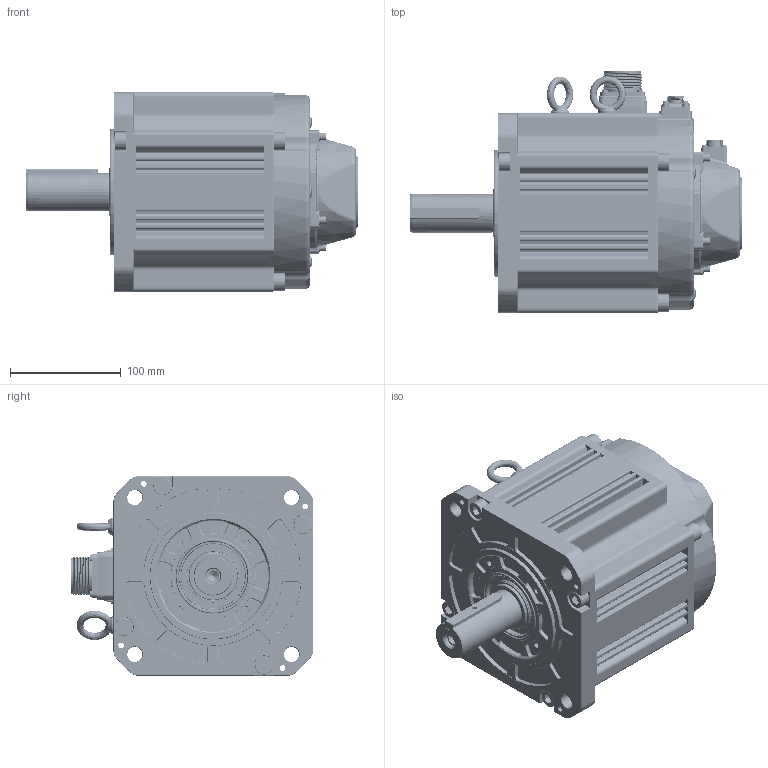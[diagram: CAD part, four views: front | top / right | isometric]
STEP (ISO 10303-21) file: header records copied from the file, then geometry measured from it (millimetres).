
FILE_DESCRIPTION (( 'STEP AP203' ), '1' );
FILE_NAME ('俋倛芞ACM2M-1844(T)B.STEP', '2024-07-25T12:29:37', ( 'Windows 蚚誧' ), ( 'Organization' ), 'SwSTEP 2.0', 'SolidWorks 2021', '' );
FILE_SCHEMA (( 'CONFIG_CONTROL_DESIGN' ));
Length unit declared in the file: millimetre
Products named in the file (20): 180ヶ傷裔_傖こ2.9; 130晤鎢ん裔2M; 粣扥耳35_4.4kw-DMC淕极宒袪粣; C型平键10×8×65; 动力插座螺钉M3×25_M3×10; 价陬假蚾釱蹟隊; 180蚐猾; 编码插座螺钉；M3×10_M3×10; 俋倛芞ACM2M-1844(T)B; 180儂褲_4.4; 晤鎢裔蹟隊 M4℅14; 蹟隊-价陬假蚾; 180价陬瑤脣假蚾釱; 雄薯脣釱; 180刹车后端盖_55nm成品-十字连轴+直连; ﾂﾝｶ､｣ｻM10｡ﾁ30_M10｡ﾁ30; 晤鎢脣芛蟀諉ん; 价陬脣釱; 180瑤脣假蚾釱; M8裂遠蹟
Assembly tree (45 placements, depth 2):
  俋倛芞ACM2M-1844(T)B
    180ヶ傷裔_傖こ2.9
    180儂褲_4.4
    180刹车后端盖_55nm成品-十字连轴+直连
    130晤鎢ん裔2M
    180瑤脣假蚾釱
    雄薯脣釱
    晤鎢脣芛蟀諉ん
    M8裂遠蹟  x2
    ﾂﾝｶ､｣ｻM10｡ﾁ30_M10｡ﾁ30  x8
    编码插座螺钉；M3×10_M3×10  x8
    180蚐猾
    晤鎢裔蹟隊 M4℅14  x4
    粣扥耳35_4.4kw-DMC淕极宒袪粣
    C型平键10×8×65
    动力插座螺钉M3×25_M3×10  x4
    180价陬瑤脣假蚾釱
    价陬脣釱
    价陬假蚾釱蹟隊  x4
    蹟隊-价陬假蚾  x3
Bounding box: 299.4 x 218.2 x 180 mm (x, y, z)
Volume: 5607188.3 mm3; surface area: 485074.2 mm2
Topology: 66 solids, 72 shells, 3882 faces, 9752 edges, 6205 vertices
Faces by surface type: plane 1591, cylinder 1119, bspline 522, torus 461, cone 153, sphere 36
Full cylindrical faces by diameter (mm): 0.75 x10, 0.76 x2, 1.007 x10, 1.4 x4, 1.5 x9, 1.795 x2, 1.8 x3, 1.98 x1, 2.2 x1, 2.31 x1, 2.36 x2, 2.5 x16, 2.598 x16, 3 x16, 3.2 x16, 3.3 x4, 3.4 x4, 3.5 x8, 3.6 x4, 3.7 x4, 4 x4, 4.2 x1, 4.5 x12, 5 x10, 5.5 x4, 5.6 x16, 5.7 x3, 5.8 x4, 6 x2, 6.8 x2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
Entity records: 142304 total; most frequent: CARTESIAN_POINT 68172, ORIENTED_EDGE 15194, DIRECTION 13619, EDGE_CURVE 7597, AXIS2_PLACEMENT_3D 5227, VERTEX_POINT 5057, EDGE_LOOP 3890, FACE_OUTER_BOUND 3483
